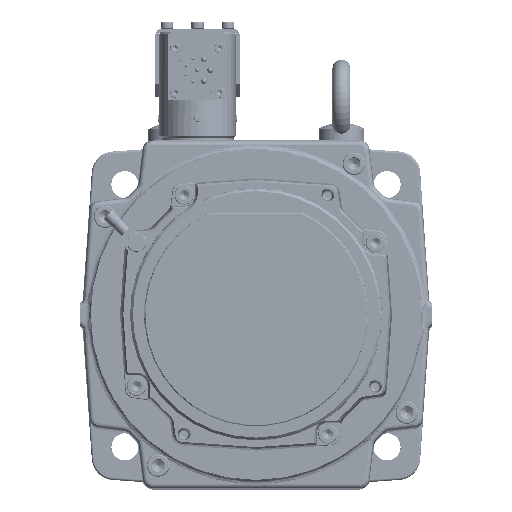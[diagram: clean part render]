
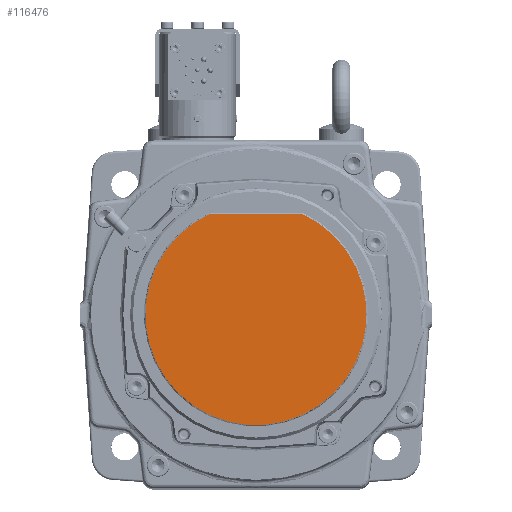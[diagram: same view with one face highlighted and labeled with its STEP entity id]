
A CAD part, top view. The second image highlights one B-rep face of the part: STEP entity #116476.
In plain terms, the highlighted planar face has unit normal (0, 0, 1).
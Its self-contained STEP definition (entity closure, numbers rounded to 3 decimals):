
#107977=CARTESIAN_POINT('',(0.,0.,63.9));
#107978=DIRECTION('',(0.,0.,-1.));
#107979=DIRECTION('',(0.418,0.908,0.));
#107980=AXIS2_PLACEMENT_3D('',#107977,#107978,#107979);
#107989=DIRECTION('',(-1.,0.,0.));
#107990=VECTOR('',#107989,41.125);
#107991=CARTESIAN_POINT('',(20.562,44.7,63.9));
#107992=LINE('',#107991,#107990);
#108667=CARTESIAN_POINT('',(20.562,44.7,63.9));
#108668=CARTESIAN_POINT('',(-20.562,44.7,63.9));
#108669=VERTEX_POINT('',#108667);
#108670=VERTEX_POINT('',#108668);
#116467=CARTESIAN_POINT('',(0.,0.,63.9));
#116468=DIRECTION('',(0.,0.,1.));
#116469=DIRECTION('',(1.,0.,0.));
#116470=AXIS2_PLACEMENT_3D('',#116467,#116468,#116469);
#116471=PLANE('',#116470);
#116472=ORIENTED_EDGE('',*,*,#116446,.T.);
#116473=ORIENTED_EDGE('',*,*,#116458,.F.);
#116474=EDGE_LOOP('',(#116472,#116473));
#116475=FACE_OUTER_BOUND('',#116474,.F.);
#116476=ADVANCED_FACE('',(#116475),#116471,.T.);
#107981=CIRCLE('',#107980,49.203);
#116446=EDGE_CURVE('',#108669,#108670,#107981,.T.);
#116458=EDGE_CURVE('',#108669,#108670,#107992,.T.);
